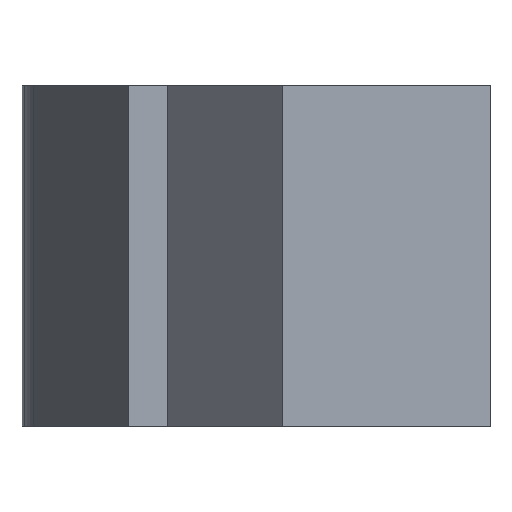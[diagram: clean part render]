
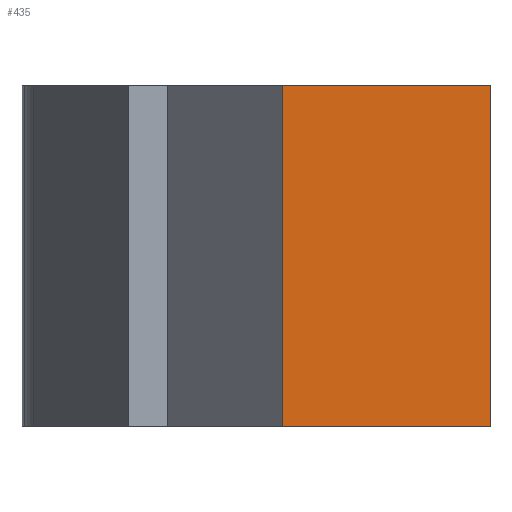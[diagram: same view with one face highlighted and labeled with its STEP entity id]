
A CAD part, left-side view. The second image highlights one B-rep face of the part: STEP entity #435.
In plain terms, the highlighted planar face has unit normal (-1, 0, 0).
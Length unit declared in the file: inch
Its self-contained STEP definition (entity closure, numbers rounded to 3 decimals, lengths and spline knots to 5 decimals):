
#12 = AXIS2_PLACEMENT_3D ( 'NONE', #409, #71, #202 ) ;
#24 = LINE ( 'NONE', #316, #297 ) ;
#37 = LINE ( 'NONE', #345, #266 ) ;
#67 = ORIENTED_EDGE ( 'NONE', *, *, #235, .T. ) ;
#71 = DIRECTION ( 'NONE',  ( -1., 0., 0. ) ) ;
#72 = VERTEX_POINT ( 'NONE', #144 ) ;
#74 = CARTESIAN_POINT ( 'NONE',  ( -3.875, 0.609, 0. ) ) ;
#85 = CARTESIAN_POINT ( 'NONE',  ( -3.875, 0., 0. ) ) ;
#92 = VECTOR ( 'NONE', #324, 39.37008 ) ;
#93 = CARTESIAN_POINT ( 'NONE',  ( -3.875, 0., 0. ) ) ;
#95 = EDGE_CURVE ( 'NONE', #72, #238, #24, .T. ) ;
#110 = DIRECTION ( 'NONE',  ( 0., 0., 1. ) ) ;
#129 = DIRECTION ( 'NONE',  ( 0., -1., 0. ) ) ;
#132 = PLANE ( 'NONE',  #12 ) ;
#134 = CARTESIAN_POINT ( 'NONE',  ( -3.875, 0., -1. ) ) ;
#144 = CARTESIAN_POINT ( 'NONE',  ( -3.875, 0.609, -1. ) ) ;
#163 = ORIENTED_EDGE ( 'NONE', *, *, #274, .F. ) ;
#175 = CARTESIAN_POINT ( 'NONE',  ( -3.875, 0., -1. ) ) ;
#198 = EDGE_CURVE ( 'NONE', #72, #403, #37, .T. ) ;
#202 = DIRECTION ( 'NONE',  ( 0., 0., 1. ) ) ;
#234 = DIRECTION ( 'NONE',  ( 0., 0., 1. ) ) ;
#235 = EDGE_CURVE ( 'NONE', #403, #400, #239, .T. ) ;
#238 = VERTEX_POINT ( 'NONE', #74 ) ;
#239 = LINE ( 'NONE', #134, #318 ) ;
#266 = VECTOR ( 'NONE', #129, 39.37008 ) ;
#269 = ORIENTED_EDGE ( 'NONE', *, *, #95, .F. ) ;
#274 = EDGE_CURVE ( 'NONE', #238, #400, #422, .T. ) ;
#297 = VECTOR ( 'NONE', #110, 39.37008 ) ;
#316 = CARTESIAN_POINT ( 'NONE',  ( -3.875, 0.609, -1. ) ) ;
#318 = VECTOR ( 'NONE', #234, 39.37008 ) ;
#324 = DIRECTION ( 'NONE',  ( 0., -1., 0. ) ) ;
#334 = FACE_OUTER_BOUND ( 'NONE', #404, .T. ) ;
#345 = CARTESIAN_POINT ( 'NONE',  ( -3.875, 0., -1. ) ) ;
#366 = ORIENTED_EDGE ( 'NONE', *, *, #198, .T. ) ;
#400 = VERTEX_POINT ( 'NONE', #93 ) ;
#403 = VERTEX_POINT ( 'NONE', #175 ) ;
#404 = EDGE_LOOP ( 'NONE', ( #163, #269, #366, #67 ) ) ;
#409 = CARTESIAN_POINT ( 'NONE',  ( -3.875, 0., -1. ) ) ;
#422 = LINE ( 'NONE', #85, #92 ) ;
#435 = ADVANCED_FACE ( 'NONE', ( #334 ), #132, .T. ) ;
